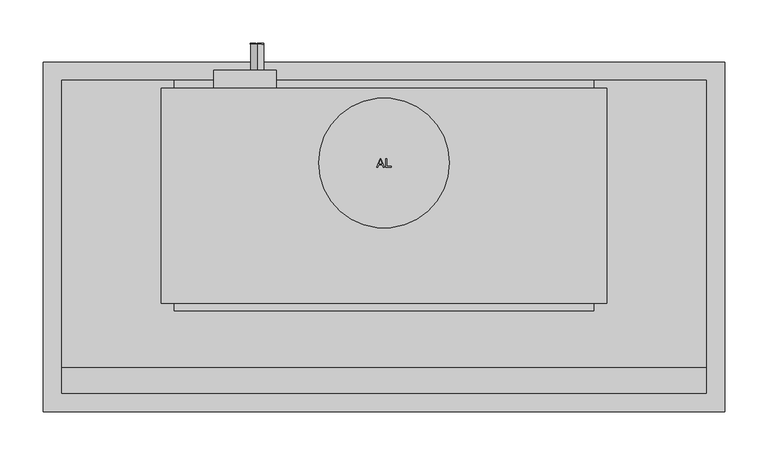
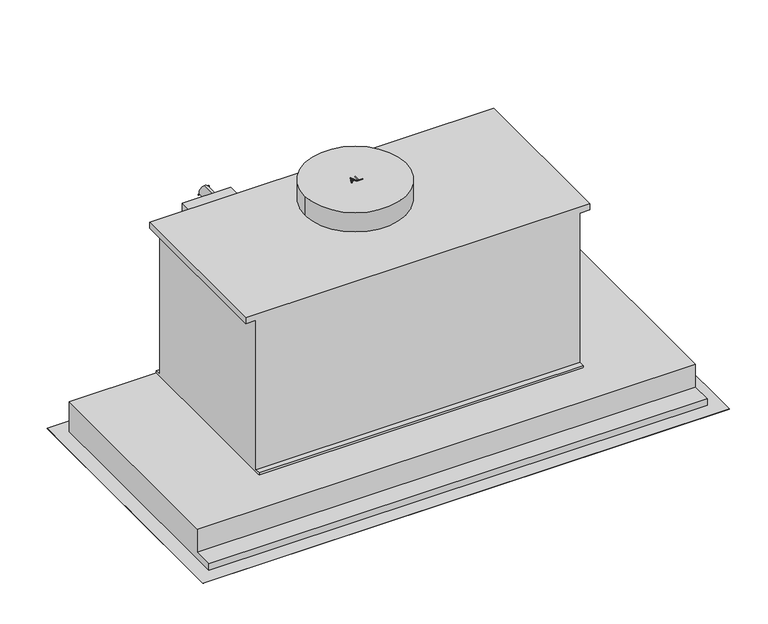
"""IFC4 building model written with IfcOpenShell, lengths in millimetres: proxy geometry, 10876770_USA_DA2588_EDST : 28258855_USA_10876770_DA2588_EDST."""

import ifcopenshell
import ifcopenshell.guid

model = None  # the IFC model being written
_history = None  # IfcOwnerHistory: only IFC2X3 demands one
_inside = {}  # id of a spatial element -> (the spatial element, [elements in it])
_under = {}  # id of a project, library or spatial element -> (it, [spatial elements below it])
_declared = {}  # id of a project -> (the project, [libraries it declares])
_typed = {}  # id of a type object -> (the type object, [elements of that type])
_made_of = {}  # id of a material, layer set ... -> (it, [elements and type objects made of it])


def new_model(schema):
    """Start an empty IFC model of exactly this schema.

    Asked for "IFC4X3", IfcOpenShell would pick the latest addendum, in which some entities
    have other attributes; the version numbers below select the first issue.
    IFC2X3 requires an IfcOwnerHistory on every rooted entity: one is made here for all.
    """
    global model, _history
    if schema == "IFC4X3":
        model = ifcopenshell.file(schema_version=(4, 3, 0, 0))
    else:
        model = ifcopenshell.file(schema=schema)
    _inside.clear()
    _under.clear()
    _declared.clear()
    _typed.clear()
    _made_of.clear()
    _history = None
    if model.schema == "IFC2X3":
        org = make("IfcOrganization", Name="unknown")
        user = make(
            "IfcPersonAndOrganization",
            ThePerson=make("IfcPerson", FamilyName="unknown"),
            TheOrganization=org,
        )
        app = make(
            "IfcApplication",
            ApplicationDeveloper=org,
            Version="unknown",
            ApplicationFullName="unknown",
            ApplicationIdentifier="unknown",
        )
        _history = make(
            "IfcOwnerHistory",
            OwningUser=user,
            OwningApplication=app,
            ChangeAction="ADDED",
            CreationDate=0,
        )
    return model


def make(cls, **values):
    """One entity of the class cls with the attributes given. An attribute that is None is left unset."""
    return model.create_entity(
        cls, **{name: value for name, value in values.items() if value is not None}
    )


def rooted(cls, **values):
    """An entity with a GlobalId (a new one), such as an element, a storey or a relation."""
    return make(cls, GlobalId=ifcopenshell.guid.new(), OwnerHistory=_history, **values)


def si_unit(unit_type, name, prefix=None):
    """IfcSIUnit, for example si_unit("LENGTHUNIT", "METRE", prefix="MILLI")."""
    return make("IfcSIUnit", UnitType=unit_type, Prefix=prefix, Name=name)


def assignment(units):
    """IfcUnitAssignment: the units of a project."""
    return None if units is None else make("IfcUnitAssignment", Units=units)


def point(xyz):
    """IfcCartesianPoint."""
    return None if xyz is None else make("IfcCartesianPoint", Coordinates=xyz)


def direction(xyz):
    """IfcDirection."""
    return None if xyz is None else make("IfcDirection", DirectionRatios=xyz)


def frame(location, z_axis=None, x_axis=None):
    """IfcAxis2Placement3D, a coordinate frame: its origin and axes. An axis left out is left unset."""
    return make(
        "IfcAxis2Placement3D",
        Location=point(location),
        Axis=direction(z_axis),
        RefDirection=direction(x_axis),
    )


def frame_2d(location, x_axis=None):
    """IfcAxis2Placement2D, a coordinate frame in the plane: its origin and x axis."""
    return make(
        "IfcAxis2Placement2D", Location=point(location), RefDirection=direction(x_axis)
    )


def origin():
    """The frame at (0, 0, 0) with its axes left unset."""
    return frame((0.0, 0.0, 0.0))


def place(relative_to, where):
    """IfcLocalPlacement: puts the frame where relative to a parent placement (None: the world)."""
    return make(
        "IfcLocalPlacement", PlacementRelTo=relative_to, RelativePlacement=where
    )


def context(
    kind, dimensions, precision=None, world=None, true_north=None, identifier=None
):
    """IfcGeometricRepresentationContext, for example the 3D "Model" context."""
    return make(
        "IfcGeometricRepresentationContext",
        ContextIdentifier=identifier,
        ContextType=kind,
        CoordinateSpaceDimension=dimensions,
        Precision=precision,
        WorldCoordinateSystem=world,
        TrueNorth=true_north,
    )


def project(units=None, contexts=None):
    """IfcProject with its units and contexts."""
    return rooted(
        "IfcProject",
        Name="project",
        RepresentationContexts=contexts,
        UnitsInContext=assignment(units),
    )


def spatial(cls, under=None, at=None, **own):
    """A site, building, storey or space (cls), placed at a placement, below another one or the project."""
    s = rooted(cls, ObjectPlacement=at, **own)
    if under is not None:
        _under.setdefault(under.id(), (under, []))[1].append(s)
    return s


def polyline(points):
    """IfcPolyline through the points."""
    return make("IfcPolyline", Points=[point(p) for p in points])


def circle_curve(where, radius):
    """IfcCircle in the frame where."""
    return make("IfcCircle", Position=where, Radius=radius)


def trimmed(basis, trim1, trim2, sense, master):
    """IfcTrimmedCurve: the piece of a basis curve between two trims."""
    return make(
        "IfcTrimmedCurve",
        BasisCurve=basis,
        Trim1=trim1,
        Trim2=trim2,
        SenseAgreement=sense,
        MasterRepresentation=master,
    )


def segment(curve, same_sense, transition):
    """IfcCompositeCurveSegment."""
    return make(
        "IfcCompositeCurveSegment",
        Transition=transition,
        SameSense=same_sense,
        ParentCurve=curve,
    )


def composite_curve(segments, self_intersect=None):
    """IfcCompositeCurve: segments joined end to end."""
    return make("IfcCompositeCurve", Segments=segments, SelfIntersect=self_intersect)


def outline(outer, holes=None, kind="AREA"):
    """IfcArbitraryClosedProfileDef: a profile drawn as a closed curve; with holes, ...WithVoids."""
    if holes is None:
        return make("IfcArbitraryClosedProfileDef", ProfileType=kind, OuterCurve=outer)
    return make(
        "IfcArbitraryProfileDefWithVoids",
        ProfileType=kind,
        OuterCurve=outer,
        InnerCurves=holes,
    )


def extrude(swept, where, along, depth):
    """IfcExtrudedAreaSolid: the profile swept, set in the frame where, extruded along a direction by depth."""
    return make(
        "IfcExtrudedAreaSolid",
        SweptArea=swept,
        Position=where,
        ExtrudedDirection=direction(along),
        Depth=depth,
    )


def faces_of(points, faces, orient=None, outer=None):
    """IfcFace entities. A face is a list of loops; a loop is a list of indices into points, from 0.

    orient and outer hold one flag for each loop. By default every Orientation is true, the
    first loop of a face is its IfcFaceOuterBound and the others are IfcFaceBound.
    """
    made = []
    for i, loops in enumerate(faces):
        bounds = []
        for j, loop in enumerate(loops):
            is_outer = j == 0 if outer is None else outer[i][j]
            bounds.append(
                make(
                    "IfcFaceOuterBound" if is_outer else "IfcFaceBound",
                    Bound=make("IfcPolyLoop", Polygon=[points[k] for k in loop]),
                    Orientation=True if orient is None else orient[i][j],
                )
            )
        made.append(make("IfcFace", Bounds=bounds))
    return made


def faceted_brep(points, faces, orient=None, outer=None, voids=None):
    """IfcFacetedBrep: a solid bounded by flat faces; with voids (closed shells), ...WithVoids."""
    shared = [point(p) for p in points]
    hull = make("IfcClosedShell", CfsFaces=faces_of(shared, faces, orient, outer))
    if voids is None:
        return make("IfcFacetedBrep", Outer=hull)
    return make(
        "IfcFacetedBrepWithVoids",
        Outer=hull,
        Voids=[
            make(cls, CfsFaces=faces_of(shared, fs, o, b)) for cls, fs, o, b in voids
        ],
    )


def shape(context_of_items, identifier, shape_type, items):
    """IfcShapeRepresentation: the items that make up one representation, for example the "Body"."""
    return make(
        "IfcShapeRepresentation",
        ContextOfItems=context_of_items,
        RepresentationIdentifier=identifier,
        RepresentationType=shape_type,
        Items=items,
    )


def source(mapping_origin, context_of_items, identifier, shape_type, items):
    """IfcRepresentationMap: a shape defined once, which mapped items show again and again."""
    return make(
        "IfcRepresentationMap",
        MappingOrigin=mapping_origin,
        MappedRepresentation=shape(context_of_items, identifier, shape_type, items),
    )


def transform(
    local_origin,
    x_axis=None,
    y_axis=None,
    z_axis=None,
    scale=None,
    scale2=None,
    scale3=None,
    uniform=True,
):
    """IfcCartesianTransformationOperator3D, or its non-uniform kind. x_axis, y_axis, z_axis: its Axis1, 2, 3."""
    if uniform:
        return make(
            "IfcCartesianTransformationOperator3D",
            Axis1=direction(x_axis),
            Axis2=direction(y_axis),
            LocalOrigin=point(local_origin),
            Scale=scale,
            Axis3=direction(z_axis),
        )
    return make(
        "IfcCartesianTransformationOperator3DnonUniform",
        Axis1=direction(x_axis),
        Axis2=direction(y_axis),
        LocalOrigin=point(local_origin),
        Scale=scale,
        Axis3=direction(z_axis),
        Scale2=scale2,
        Scale3=scale3,
    )


def mapped(mapping_source, mapping_target):
    """IfcMappedItem: shows the shape of a source again, moved by a transform."""
    return make(
        "IfcMappedItem", MappingSource=mapping_source, MappingTarget=mapping_target
    )


def made_of(thing, what):
    """Note that an element or type object is made of a material, layer set ...; save() writes the relation."""
    if what is not None:
        _made_of.setdefault(what.id(), (what, []))[1].append(thing)
    return thing


def element(
    cls,
    number,
    at=None,
    inside=None,
    cuts=None,
    type_object=None,
    material=None,
    context=None,
    identifier="Body",
    shape_type=None,
    held_by="IfcProductDefinitionShape",
    body=None,
    shapes=None,
    **own,
):
    """One element of the class cls, such as IfcWall. Its Tag is "e" and its number.

    at: its placement. inside: the storey or other place that contains it. cuts: it is an
    opening in that element (IfcRelVoidsElement). A single representation is given by context,
    identifier, shape_type and body (its items); several are given by shapes. held_by: the class
    of the entity that holds the representations. save() writes the other relations.
    """
    e = rooted(cls, Tag="e%d" % number, ObjectPlacement=at, **own)
    if body is not None:
        shapes = [shape(context, identifier, shape_type, body)]
    if shapes is not None:
        e.Representation = make(held_by, Representations=shapes)
    if inside is not None:
        _inside.setdefault(inside.id(), (inside, []))[1].append(e)
    if cuts is not None:
        rooted(
            "IfcRelVoidsElement", RelatingBuildingElement=cuts, RelatedOpeningElement=e
        )
    if type_object is not None:
        _typed.setdefault(type_object.id(), (type_object, []))[1].append(e)
    return made_of(e, material)


def aggregate(whole, parts):
    """IfcRelAggregates: a whole, such as a stair, and the parts it consists of."""
    return rooted("IfcRelAggregates", RelatingObject=whole, RelatedObjects=parts)


def save(model, path):
    """Write the relations noted so far, then the file.

    IfcRelAggregates (storeys below a building ...), IfcRelContainedInSpatialStructure (elements
    in a storey), IfcRelDefinesByType, IfcRelAssociatesMaterial and IfcRelDeclares: one each for
    every whole, place, type object, material and project.
    """
    for whole, parts in _under.values():
        aggregate(whole, parts)
    for where, things in _inside.values():
        rooted(
            "IfcRelContainedInSpatialStructure",
            RelatedElements=things,
            RelatingStructure=where,
        )
    for kind, things in _typed.values():
        rooted("IfcRelDefinesByType", RelatedObjects=things, RelatingType=kind)
    for what, things in _made_of.values():
        rooted("IfcRelAssociatesMaterial", RelatedObjects=things, RelatingMaterial=what)
    for by, libraries in _declared.values():
        rooted("IfcRelDeclares", RelatingContext=by, RelatedDefinitions=libraries)
    model.write(path)


def plane_surface(at):
    """IfcPlane: the flat surface through the origin of the frame at, square to its z axis."""
    return make("IfcPlane", Position=at)


def revolved_surface(curve, axis_point, axis_direction):
    """IfcSurfaceOfRevolution: the curve turned about the line through axis_point along axis_direction."""
    return make(
        "IfcSurfaceOfRevolution",
        SweptCurve=make("IfcArbitraryOpenProfileDef", ProfileType="CURVE", Curve=curve),
        AxisPosition=make("IfcAxis1Placement", Location=point(axis_point), Axis=direction(axis_direction)),
    )


def advanced_brep(points, edges, surfaces, faces):
    """IfcAdvancedBrep: a solid bounded by faces that lie on surfaces and meet in shared edges.

    An edge is (start, end): straight between two places in points (the first is 0);
    or (start, end, curve); or (start, end, curve, False) where it runs against its curve.
    A face is (place in surfaces, loops), or (place, loops, False) where it looks against
    its surface's normal. A loop lists edges by number (the first is 1), with a minus sign
    where the edge is run from its end to its start. The first loop is the outer one.
    """
    corners = [point(p) for p in points]
    vertices = [make("IfcVertexPoint", VertexGeometry=c) for c in corners]
    made = []
    for start, end, *more in edges:
        made.append(
            make(
                "IfcEdgeCurve",
                EdgeStart=vertices[start],
                EdgeEnd=vertices[end],
                EdgeGeometry=more[0] if more else make("IfcPolyline", Points=[corners[start], corners[end]]),
                SameSense=more[1] if len(more) > 1 else True,
            )
        )
    hull = []
    for where, loops, *sense in faces:
        bounds = []
        for j, loop in enumerate(loops):
            ring = [make("IfcOrientedEdge", EdgeElement=made[abs(k) - 1], Orientation=k > 0) for k in loop]
            bounds.append(
                make(
                    "IfcFaceOuterBound" if j == 0 else "IfcFaceBound",
                    Bound=make("IfcEdgeLoop", EdgeList=ring),
                    Orientation=True,
                )
            )
        hull.append(make("IfcAdvancedFace", Bounds=bounds, FaceSurface=surfaces[where], SameSense=sense[0] if sense else True))
    return make("IfcAdvancedBrep", Outer=make("IfcClosedShell", CfsFaces=hull))


def specialty_equipment_f81bbe7e(model_context):
    return source(origin(), model_context, "Body", "SolidModel", [
        extrude(outline(polyline([(-14.75, -94.5), (313.0, -94.5), (313.0, -370.5), (-14.75, -370.5), (-14.75, -94.5)])), frame((0.0, 0.0, 2.0), z_axis=(0.0, 0.0, 1.0), x_axis=(1.0, 0.0, 0.0)), (0.0, 0.0, 1.0), 6.0),
        extrude(outline(polyline([(-23.75, -85.5), (322.0, -85.5), (322.0, -379.5), (-23.75, -379.5), (-23.75, -85.5)]), holes=[polyline([(-14.75, -94.5), (-14.75, -370.5), (313.0, -370.5), (313.0, -94.5), (-14.75, -94.5)])]), frame((0.0, 0.0, 0.5), z_axis=(0.0, 0.0, 1.0), x_axis=(1.0, 0.0, 0.0)), (0.0, 0.0, 1.0), 9.0),
        extrude(outline(polyline([(-32.75, -94.5), (-32.75, -370.5), (-360.5, -370.5), (-360.5, -94.5), (-32.75, -94.5)])), frame((0.0, 0.0, 2.0), z_axis=(0.0, 0.0, 1.0), x_axis=(1.0, 0.0, 0.0)), (0.0, 0.0, 1.0), 6.0),
        extrude(outline(polyline([(-23.75, -85.5), (-23.75, -379.5), (-369.5, -379.5), (-369.5, -85.5), (-23.75, -85.5)]), holes=[polyline([(-32.75, -94.5), (-360.5, -94.5), (-360.5, -370.5), (-32.75, -370.5), (-32.75, -94.5)])]), frame((0.0, 0.0, 0.5), z_axis=(0.0, 0.0, 1.0), x_axis=(1.0, 0.0, 0.0)), (0.0, 0.0, 1.0), 9.0),
        extrude(outline(polyline([(132.625, -327.5), (165.625, -327.5), (165.625, -370.5), (132.625, -370.5), (132.625, -327.5)]), holes=[polyline([(139.125, -334.0), (139.125, -343.0), (158.8964328, -343.0), (158.8964328, -334.0), (139.125, -334.0)])]), frame((0.0, 0.0, 0.5), z_axis=(0.0, 0.0, 1.0), x_axis=(1.0, 0.0, 0.0)), (0.0, 0.0, 1.0), 1.5),
        extrude(outline(polyline([(-180.125, -327.5), (-180.125, -370.5), (-213.125, -370.5), (-213.125, -327.5), (-180.125, -327.5)]), holes=[polyline([(-186.625, -334.0), (-206.625, -334.0), (-206.625, -343.0), (-186.625, -343.0), (-186.625, -334.0)])]), frame((0.0, 0.0, 0.5), z_axis=(0.0, 0.0, 1.0), x_axis=(1.0, 0.0, 0.0)), (0.0, 0.0, 1.0), 1.5),
        extrude(outline(composite_curve([segment(trimmed(circle_curve(frame_2d((0.0, -116.0)), 75.0), [point((75.0, -116.0))], [point((-75.0, -116.0))], False, "CARTESIAN"), True, "CONTINUOUS"), segment(trimmed(circle_curve(frame_2d((0.0, -116.0)), 75.0), [point((-75.0, -116.0))], [point((75.0, -116.0))], False, "CARTESIAN"), True, "CONTINUOUS")], self_intersect=False)), frame((0.0, 0.0, 295.0), z_axis=(0.0, 0.0, 1.0), x_axis=(1.0, 0.0, 0.0)), (0.0, 0.0, 1.0), 30.0),
        faceted_brep([(371.0, -21.0, 47.0), (-371.0, -21.0, 47.0), (-371.0, -351.0, 47.0), (371.0, -351.0, 47.0), (371.0, -21.0, 0.0), (371.0, -381.0, 0.0), (-371.0, -381.0, 0.0), (-371.0, -21.0, 0.0), (370.0, -22.0, 0.0), (-370.0, -22.0, 0.0), (-370.0, -380.0, 0.0), (370.0, -380.0, 0.0), (-371.0, -381.0, 10.4), (-371.0, -351.0, 10.4), (371.0, -381.0, 10.4), (371.0, -351.0, 10.4), (370.0, -22.0, 10.0), (370.0, -380.0, 10.0), (-370.0, -380.0, 10.0), (-370.0, -22.0, 10.0)], [[[0, 1, 2, 3]], [[4, 5, 6, 7], [8, 9, 10, 11]], [[1, 0, 4, 7]], [[7, 6, 12, 13, 2, 1]], [[6, 5, 14, 12]], [[5, 4, 0, 3, 15, 14]], [[16, 17, 18, 19]], [[16, 19, 9, 8]], [[19, 18, 10, 9]], [[18, 17, 11, 10]], [[17, 16, 8, 11]], [[15, 13, 12, 14]], [[13, 15, 3, 2]]]),
        faceted_brep([(392.0, 0.0, 0.0), (-392.0, 0.0, 0.0), (-392.0, -402.0, 0.0), (392.0, -402.0, 0.0), (-370.0, -22.0, 0.0), (370.0, -22.0, 0.0), (370.0, -380.0, 0.0), (-370.0, -380.0, 0.0), (-387.669873, -397.669873, -3.0), (-387.669873, -4.330127, -3.0), (387.669873, -4.330127, -3.0), (387.669873, -397.669873, -3.0), (370.0, -22.0, -3.0), (-370.0, -22.0, -3.0), (-370.0, -380.0, -3.0), (370.0, -380.0, -3.0), (392.0, 0.0, -0.5), (-392.0, 0.0, -0.5), (-392.0, -402.0, -0.5), (392.0, -402.0, -0.5)], [[[0, 1, 2, 3], [4, 5, 6, 7]], [[8, 9, 10, 11], [12, 13, 14, 15]], [[1, 0, 16, 17]], [[2, 1, 17, 18]], [[3, 2, 18, 19]], [[0, 3, 19, 16]], [[18, 17, 9, 8]], [[16, 19, 11, 10]], [[8, 11, 19, 18]], [[10, 9, 17, 16]], [[12, 5, 4, 13]], [[13, 4, 7, 14]], [[14, 7, 6, 15]], [[5, 12, 15, 6]]]),
        extrude(outline(polyline([(-8.547125, -121.0), (-4.5372113, -110.954369), (-3.4679009, -110.954369), (0.5420128, -121.0), (-0.7848149, -121.0), (-1.9350593, -117.8607403), (-6.0725055, -117.8607403), (-7.2202973, -121.0), (-8.547125, -121.0)]), holes=[polyline([(-5.6114267, -116.6050364), (-2.3936855, -116.6050364), (-3.2986752, -114.135322), (-4.0025561, -112.2100729), (-4.6279555, -113.9194979), (-5.6114267, -116.6050364)])]), frame((0.0, 0.0, 325.0), z_axis=(0.0, 0.0, 1.0), x_axis=(1.0, 0.0, 0.0)), (0.0, 0.0, 1.0), 1.0),
        extrude(outline(polyline([(1.8835558, -121.0), (1.8835558, -110.954369), (3.1392597, -110.954369), (3.1392597, -119.7442961), (8.1620752, -119.7442961), (8.1620752, -121.0), (1.8835558, -121.0)])), frame((0.0, 0.0, 325.0), z_axis=(0.0, 0.0, 1.0), x_axis=(1.0, 0.0, 0.0)), (0.0, 0.0, 1.0), 1.0),
        extrude(outline(polyline([(271.0, -138.6227397), (281.045631, -138.6227397), (281.045631, -145.843037), (279.7899271, -145.843037), (279.7899271, -139.8784436), (276.8076304, -139.8784436), (276.8076304, -145.529111), (275.5519266, -145.529111), (275.5519266, -139.8784436), (272.2557039, -139.8784436), (272.2557039, -146.0), (271.0, -146.0), (271.0, -138.6227397)])), frame((0.0, 20.6, 0.0), z_axis=(0.0, 1.0, 0.0), x_axis=(0.0, 0.0, 1.0)), (0.0, 0.0, 1.0), 1.0),
        extrude(outline(polyline([(271.0, -147.8835558), (281.045631, -147.8835558), (281.045631, -149.1392597), (272.2557039, -149.1392597), (272.2557039, -154.1620752), (271.0, -154.1620752), (271.0, -147.8835558)])), frame((0.0, 20.6, 0.0), z_axis=(0.0, 1.0, 0.0), x_axis=(0.0, 0.0, 1.0)), (0.0, 0.0, 1.0), 1.0),
        extrude(outline(composite_curve([segment(trimmed(circle_curve(frame_2d((276.0, -146.0)), 7.5), [point((268.5, -146.0))], [point((283.5, -146.0))], False, "CARTESIAN"), True, "CONTINUOUS"), segment(trimmed(circle_curve(frame_2d((276.0, -146.0)), 7.5), [point((283.5, -146.0))], [point((268.5, -146.0))], False, "CARTESIAN"), True, "CONTINUOUS")], self_intersect=False)), frame((0.0, -9.4, 0.0), z_axis=(0.0, 1.0, 0.0), x_axis=(0.0, 0.0, 1.0)), (0.0, 0.0, 1.0), 30.0),
        extrude(outline(polyline([(-124.0, -9.4), (-124.0, -29.7), (-196.0, -29.7), (-196.0, -9.4), (-124.0, -9.4)])), frame((0.0, 0.0, 265.3), z_axis=(0.0, 0.0, 1.0), x_axis=(1.0, 0.0, 0.0)), (0.0, 0.0, 1.0), 26.2),
        faceted_brep([(-241.5, -29.7, 285.5), (-256.5, -29.7, 285.5), (-256.5, -29.7, 295.0), (256.5, -29.7, 295.0), (256.5, -29.7, 285.5), (241.5, -29.7, 285.5), (241.5, -29.7, 50.5), (-241.5, -29.7, 50.5), (-256.5, -277.3, 295.0), (-256.5, -277.3, 285.5), (-241.5, -277.3, 285.5), (-241.5, -277.3, 50.5), (241.5, -277.3, 50.5), (241.5, -277.3, 285.5), (256.5, -277.3, 285.5), (256.5, -277.3, 295.0), (241.5, -286.0, 50.5), (241.5, -286.0, 47.0), (241.5, -21.0, 47.0), (241.5, -21.0, 50.5), (-241.5, -286.0, 50.5), (-241.5, -21.0, 50.5), (-241.5, -21.0, 47.0), (-241.5, -286.0, 47.0)], [[[0, 1, 2, 3, 4, 5, 6, 7]], [[8, 9, 10, 11, 12, 13, 14, 15]], [[1, 0, 10, 9]], [[2, 1, 9, 8]], [[3, 2, 8, 15]], [[4, 3, 15, 14]], [[5, 4, 14, 13]], [[16, 17, 18, 19, 6, 5, 13, 12]], [[20, 11, 10, 0, 7, 21, 22, 23]], [[18, 17, 23, 22]], [[19, 18, 22, 21]], [[6, 19, 21, 7]], [[17, 16, 20, 23]], [[16, 12, 11, 20]]]),
        extrude(outline(polyline([(369.5, -22.0), (369.5, -85.0), (-369.5, -85.0), (-369.5, -22.0), (369.5, -22.0)])), frame((0.0, 0.0, -1.0), z_axis=(0.0, 0.0, 1.0), x_axis=(1.0, 0.0, 0.0)), (0.0, 0.0, 1.0), 8.0),
        advanced_brep(
        [(191.0, -55.0, -1.0), (166.0, -55.0, -1.0), (216.0, -55.0, -1.0), (214.571852, -55.0, -2.0), (167.428148, -55.0, -2.0), (191.0, -55.0, -2.0)],
        [
            (0, 1),
            (1, 2, circle_curve(frame((191.0, -55.0, -1.0), z_axis=(0.0, 0.0, 1.0), x_axis=(-1.0, 0.0, 0.0)), 25.0)),
            (2, 0),
            (2, 1, circle_curve(frame((191.0, -55.0, -1.0), z_axis=(0.0, 0.0, 1.0), x_axis=(-1.0, 0.0, 0.0)), 25.0)),
            (3, 4, circle_curve(frame((191.0, -55.0, -2.0), z_axis=(0.0, 0.0, -1.0), x_axis=(-1.0, 0.0, 0.0)), 23.571852)),
            (4, 5),
            (5, 3),
            (4, 3, circle_curve(frame((191.0, -55.0, -2.0), z_axis=(0.0, 0.0, -1.0), x_axis=(-1.0, 0.0, 0.0)), 23.571852)),
            (1, 4),
            (3, 2),
        ],
        [
            plane_surface(frame((191.0, -55.0, -1.0), z_axis=(0.0, 0.0, 1.0), x_axis=(-1.0, 0.0, 0.0))),
            plane_surface(frame((191.0, -55.0, -2.0), z_axis=(0.0, 0.0, -1.0), x_axis=(-1.0, 0.0, 0.0))),
            revolved_surface(polyline([(167.428148, -55.0, -2.0), (166.0, -55.0, -1.0)]), (191.0, -55.0, 2137.4), (0.0, 0.0, 1.0)),
        ],
        [
            (0, [[1, 2, 3]]),
            (0, [[-3, 4, -1]]),
            (1, [[5, 6, 7]]),
            (1, [[8, -7, -6]]),
            (2, [[-2, 9, -5, 10]]),
            (2, [[-4, -10, -8, -9]]),
        ],
    ),
        advanced_brep(
        [(-191.0, -55.0, -1.0), (-216.0, -55.0, -1.0), (-166.0, -55.0, -1.0), (-167.428148, -55.0, -2.0), (-214.571852, -55.0, -2.0), (-191.0, -55.0, -2.0)],
        [
            (0, 1),
            (1, 2, circle_curve(frame((-191.0, -55.0, -1.0), z_axis=(0.0, 0.0, 1.0), x_axis=(-1.0, 0.0, 0.0)), 25.0)),
            (2, 0),
            (2, 1, circle_curve(frame((-191.0, -55.0, -1.0), z_axis=(0.0, 0.0, 1.0), x_axis=(-1.0, 0.0, 0.0)), 25.0)),
            (3, 4, circle_curve(frame((-191.0, -55.0, -2.0), z_axis=(0.0, 0.0, -1.0), x_axis=(-1.0, 0.0, 0.0)), 23.571852)),
            (4, 5),
            (5, 3),
            (4, 3, circle_curve(frame((-191.0, -55.0, -2.0), z_axis=(0.0, 0.0, -1.0), x_axis=(-1.0, 0.0, 0.0)), 23.571852)),
            (1, 4),
            (3, 2),
        ],
        [
            plane_surface(frame((-191.0, -55.0, -1.0), z_axis=(0.0, 0.0, 1.0), x_axis=(-1.0, 0.0, 0.0))),
            plane_surface(frame((-191.0, -55.0, -2.0), z_axis=(0.0, 0.0, -1.0), x_axis=(-1.0, 0.0, 0.0))),
            revolved_surface(polyline([(-214.571852, -55.0, -2.0), (-216.0, -55.0, -1.0)]), (-191.0, -55.0, 2137.4), (0.0, 0.0, 1.0)),
        ],
        [
            (0, [[1, 2, 3]]),
            (0, [[-3, 4, -1]]),
            (1, [[5, 6, 7]]),
            (1, [[8, -7, -6]]),
            (2, [[-2, 9, -5, 10]]),
            (2, [[-4, -10, -8, -9]]),
        ],
    ),
        extrude(outline(composite_curve([segment(polyline([(-1.4, 350.0), (0.2, 350.0), (0.2, 342.0), (-1.4, 342.0)]), True, "CONTINUOUS"), segment(trimmed(circle_curve(frame_2d((23.2, 346.0)), 24.9230817), [point((-1.4, 342.0))], [point((-1.4, 350.0))], False, "CARTESIAN"), True, "CONTINUOUS")], self_intersect=False)), frame((0.0, -145.25, 0.0), z_axis=(0.0, 1.0, 0.0), x_axis=(0.0, 0.0, 1.0)), (0.0, 0.0, 1.0), 25.25),
        extrude(outline(composite_curve([segment(polyline([(0.2, 350.0), (0.2, 342.0), (-1.4, 342.0)]), True, "CONTINUOUS"), segment(trimmed(circle_curve(frame_2d((23.2, 346.0)), 24.9230817), [point((-1.4, 342.0))], [point((-1.4, 350.0))], False, "CARTESIAN"), True, "CONTINUOUS"), segment(polyline([(-1.4, 350.0), (0.2, 350.0)]), True, "CONTINUOUS")], self_intersect=False)), frame((0.0, -328.5, 0.0), z_axis=(0.0, 1.0, 0.0), x_axis=(0.0, 0.0, 1.0)), (0.0, 0.0, 1.0), 25.25),
        extrude(outline(composite_curve([segment(polyline([(-1.4, 350.0), (0.2, 350.0), (0.2, 342.0), (-1.4, 342.0)]), True, "CONTINUOUS"), segment(trimmed(circle_curve(frame_2d((23.2, 346.0)), 24.9230817), [point((-1.4, 342.0))], [point((-1.4, 350.0))], False, "CARTESIAN"), True, "CONTINUOUS")], self_intersect=False)), frame((0.0, -197.25, 0.0), z_axis=(0.0, 1.0, 0.0), x_axis=(0.0, 0.0, 1.0)), (0.0, 0.0, 1.0), 25.0),
        extrude(outline(composite_curve([segment(polyline([(-1.4, 350.0), (0.2, 350.0), (0.2, 342.0), (-1.4, 342.0)]), True, "CONTINUOUS"), segment(trimmed(circle_curve(frame_2d((23.2, 346.0)), 24.9230817), [point((-1.4, 342.0))], [point((-1.4, 350.0))], False, "CARTESIAN"), True, "CONTINUOUS")], self_intersect=False)), frame((0.0, -250.25, 0.0), z_axis=(0.0, 1.0, 0.0), x_axis=(0.0, 0.0, 1.0)), (0.0, 0.0, 1.0), 52.0),
        extrude(outline(composite_curve([segment(polyline([(-1.4, 350.0), (0.2, 350.0), (0.2, 342.0), (-1.4, 342.0)]), True, "CONTINUOUS"), segment(trimmed(circle_curve(frame_2d((23.2, 346.0)), 24.9230817), [point((-1.4, 342.0))], [point((-1.4, 350.0))], False, "CARTESIAN"), True, "CONTINUOUS")], self_intersect=False)), frame((0.0, -276.25, 0.0), z_axis=(0.0, 1.0, 0.0), x_axis=(0.0, 0.0, 1.0)), (0.0, 0.0, 1.0), 25.0),
        extrude(outline(composite_curve([segment(polyline([(-1.4, 350.0), (0.2, 350.0), (0.2, 342.0), (-1.4, 342.0)]), True, "CONTINUOUS"), segment(trimmed(circle_curve(frame_2d((23.2, 346.0)), 24.9230817), [point((-1.4, 342.0))], [point((-1.4, 350.0))], False, "CARTESIAN"), True, "CONTINUOUS")], self_intersect=False)), frame((0.0, -302.25, 0.0), z_axis=(0.0, 1.0, 0.0), x_axis=(0.0, 0.0, 1.0)), (0.0, 0.0, 1.0), 25.0),
        extrude(outline(composite_curve([segment(polyline([(-1.4, 350.0), (0.2, 350.0), (0.2, 342.0), (-1.4, 342.0)]), True, "CONTINUOUS"), segment(trimmed(circle_curve(frame_2d((23.2, 346.0)), 24.9230817), [point((-1.4, 342.0))], [point((-1.4, 350.0))], False, "CARTESIAN"), True, "CONTINUOUS")], self_intersect=False)), frame((0.0, -171.25, 0.0), z_axis=(0.0, 1.0, 0.0), x_axis=(0.0, 0.0, 1.0)), (0.0, 0.0, 1.0), 25.0),
        extrude(outline(polyline([(369.5, -85.0), (369.5, -379.5), (322.5, -379.5), (322.5, -85.0), (369.5, -85.0)])), frame((0.0, 0.0, 0.2), z_axis=(0.0, 0.0, 1.0), x_axis=(1.0, 0.0, 0.0)), (0.0, 0.0, 1.0), 2.0),
    ])


if __name__ == "__main__":
    model = new_model("IFC4")
    model_context = context("Model", 3, world=origin())
    ifc_project = project(units=[si_unit("LENGTHUNIT", "METRE", prefix="MILLI")], contexts=[model_context])
    site = spatial("IfcSite", under=ifc_project)
    building = spatial("IfcBuilding", under=site)
    placement = place(None, origin())
    specialty_equipment_shape = specialty_equipment_f81bbe7e(model_context)
    element("IfcBuildingElementProxy", 1, Name="10876770_USA_DA2588_EDST : 28258855_USA_10876770_DA2588_EDST", ObjectType="10876770_USA_DA2588_EDST : 28258855_USA_10876770_DA2588_EDST", at=placement, inside=building, context=model_context, shape_type="MappedRepresentation", body=[
        mapped(specialty_equipment_shape, transform((0.0, 0.0, 0.0), x_axis=(1.0, 0.0, 0.0), y_axis=(0.0, 1.0, 0.0), z_axis=(0.0, 0.0, 1.0))),
    ])
    save(model, "model.ifc")
